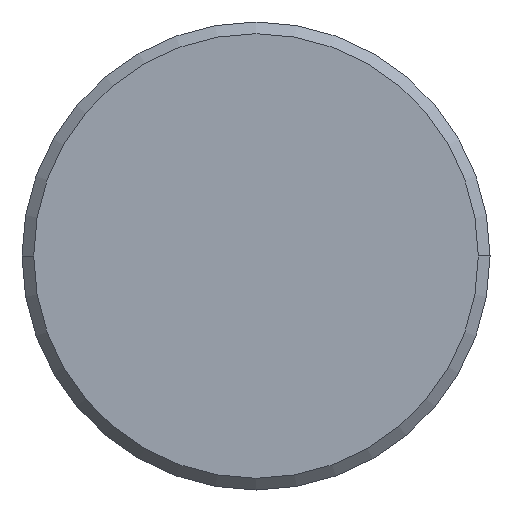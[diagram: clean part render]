
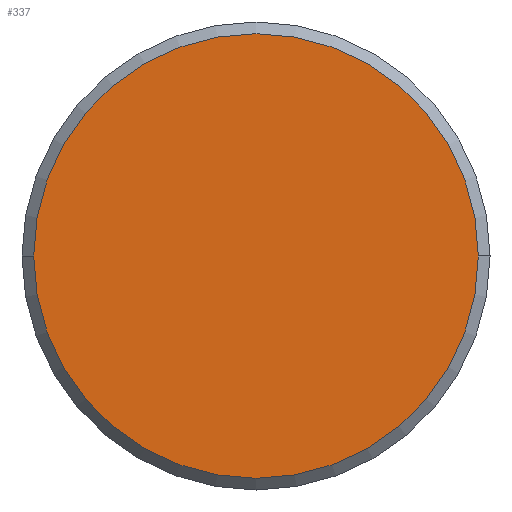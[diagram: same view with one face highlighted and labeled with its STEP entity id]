
A CAD part, left-side view. The second image highlights one B-rep face of the part: STEP entity #337.
In plain terms, the highlighted planar face has unit normal (-1, 0, 0).
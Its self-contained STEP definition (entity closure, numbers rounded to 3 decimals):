
#40 = DIRECTION ( 'NONE',  ( 0., 1., 0. ) ) ;
#74 = CARTESIAN_POINT ( 'NONE',  ( -52., 0., 0. ) ) ;
#120 = DIRECTION ( 'NONE',  ( 1., 0., 0. ) ) ;
#121 = EDGE_CURVE ( 'NONE', #181, #265, #342, .T. ) ;
#133 = CIRCLE ( 'NONE', #341, 9.5 ) ;
#135 = ORIENTED_EDGE ( 'NONE', *, *, #146, .F. ) ;
#146 = EDGE_CURVE ( 'NONE', #265, #181, #133, .T. ) ;
#149 = CARTESIAN_POINT ( 'NONE',  ( -52., -9.5, 0. ) ) ;
#181 = VERTEX_POINT ( 'NONE', #262 ) ;
#193 = FACE_OUTER_BOUND ( 'NONE', #297, .T. ) ;
#225 = DIRECTION ( 'NONE',  ( -1., 0., 0. ) ) ;
#240 = DIRECTION ( 'NONE',  ( 1., 0., 0. ) ) ;
#245 = ORIENTED_EDGE ( 'NONE', *, *, #121, .F. ) ;
#260 = AXIS2_PLACEMENT_3D ( 'NONE', #303, #225, #332 ) ;
#262 = CARTESIAN_POINT ( 'NONE',  ( -52., 9.5, 0. ) ) ;
#265 = VERTEX_POINT ( 'NONE', #149 ) ;
#270 = CARTESIAN_POINT ( 'NONE',  ( -52., 0., 0. ) ) ;
#273 = PLANE ( 'NONE',  #260 ) ;
#297 = EDGE_LOOP ( 'NONE', ( #245, #135 ) ) ;
#298 = DIRECTION ( 'NONE',  ( 0., 1., 0. ) ) ;
#303 = CARTESIAN_POINT ( 'NONE',  ( -52., 0., 0. ) ) ;
#322 = AXIS2_PLACEMENT_3D ( 'NONE', #270, #120, #298 ) ;
#332 = DIRECTION ( 'NONE',  ( 0., -1., 0. ) ) ;
#337 = ADVANCED_FACE ( 'NONE', ( #193 ), #273, .T. ) ;
#341 = AXIS2_PLACEMENT_3D ( 'NONE', #74, #240, #40 ) ;
#342 = CIRCLE ( 'NONE', #322, 9.5 ) ;
